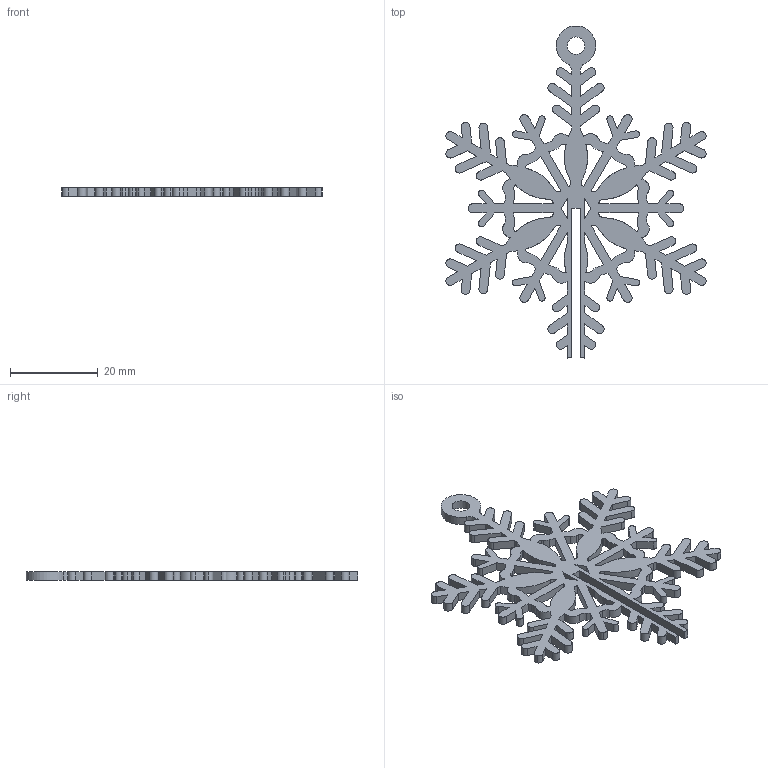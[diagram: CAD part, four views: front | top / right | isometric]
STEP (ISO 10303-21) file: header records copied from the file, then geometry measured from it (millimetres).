
FILE_DESCRIPTION(/* description */ ('','CAx-IF Rec.Pracs.---Representation and Presentation of Product Manufacturing Information (PMI)---4.0---2014-10-13'),/* implementation_level */ '2;1');
FILE_NAME(/* name */ 'Schneeflocke_01.step',/* time_stamp */ '2024-12-22T19:48:32+01:00',/* author */ (''),/* organization */ (''),/* preprocessor_version */ 'ST-DEVELOPER v20',/* originating_system */ 'Autodesk Translation Framework v13.20.0.188',/* authorisation */ '');
FILE_SCHEMA (('AP242_MANAGED_MODEL_BASED_3D_ENGINEERING_MIM_LF { 1 0 10303 442 1 1 4 }'));
Length unit declared in the file: millimetre
Products named in the file (1): 01_Schneeflocke_01
Bounding box: 59.19 x 75.48 x 2 mm (x, y, z)
Volume: 2795.8 mm3; surface area: 5202.2 mm2
Topology: 1 solids, 1 shells, 417 faces, 1245 edges, 830 vertices
Faces by surface type: plane 265, cylinder 108, bspline 44
Full cylindrical faces by diameter (mm): 4 x1
Entity records: 16238 total; most frequent: CARTESIAN_POINT 5151, ORIENTED_EDGE 2490, DIRECTION 2085, EDGE_CURVE 1245, LINE 905, VECTOR 905, VERTEX_POINT 830, AXIS2_PLACEMENT_3D 590
